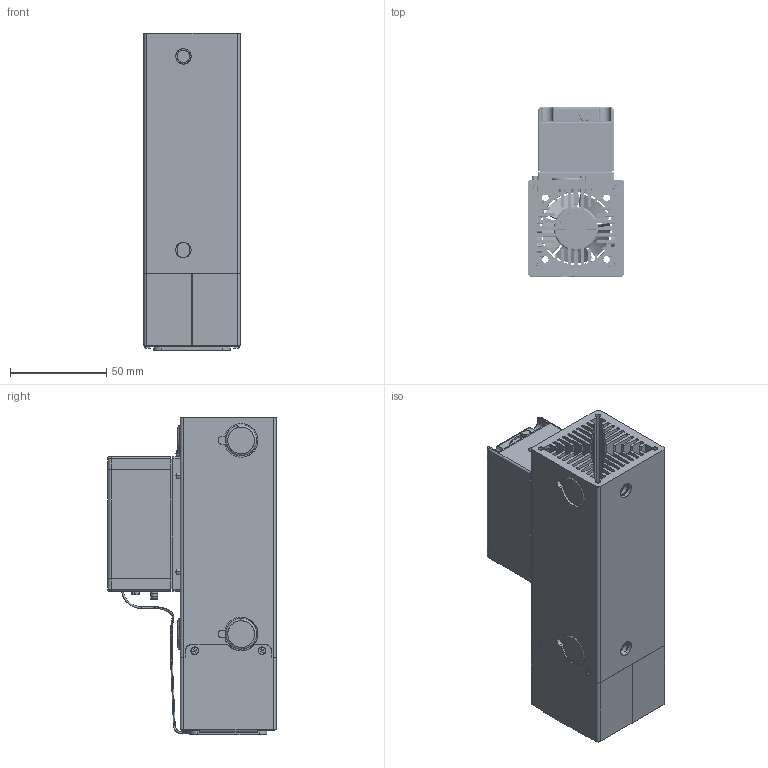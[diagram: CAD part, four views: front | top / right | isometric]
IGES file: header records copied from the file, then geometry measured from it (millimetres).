
Start section: SolidWorks IGES file using analytic representation for surfaces
Global section: file name: P:\Produkte\nextGen\3D CAD\Obis with Heat Sink.IGS; native system: SolidWorks 2011; preprocessor: SolidWorks 2011; author: SachP; date: 110421.164043; units: millimetre
Bounding box: 50 x 87.92 x 165.2 mm (x, y, z)
Surface area: 196109.7 mm2 (no closed solid volume)
Topology: 0 solids, 0 shells, 3173 faces, 29863 edges, 29778 vertices
Faces by surface type: bspline 2160, revolution 1013
